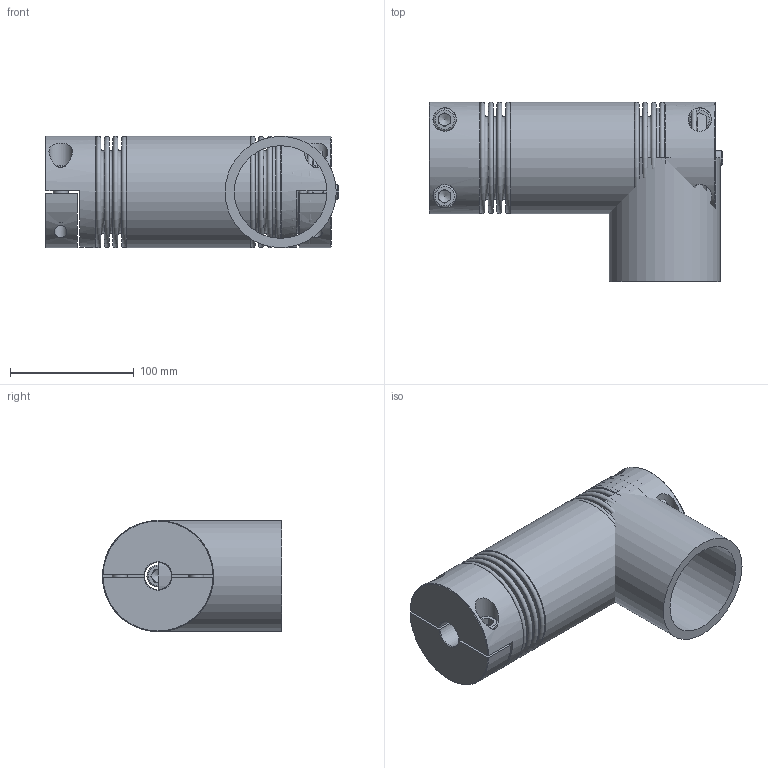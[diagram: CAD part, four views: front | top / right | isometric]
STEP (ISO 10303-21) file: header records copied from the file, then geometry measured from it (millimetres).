
FILE_DESCRIPTION( ( 'Unknown' ), '1' );
FILE_NAME( 'K:/Konstruktion/DRB/DRB200.stp', 'Unknown', ( 'Unknown' ), ( 'Unknown' ), 'XStep 1.0', 'Unknown', ' ' );
FILE_SCHEMA( ( 'automotive_design' ) );
Length unit declared in the file: millimetre
Products named in the file (6): Assem1; KN4H-200; BK200_Standard_0; Socket Head Cap Screw_DIN_DIN 912 M12 x 35 --- 35N_2; R90
Bounding box: 237.5 x 145 x 90 mm (x, y, z)
Volume: 1116871.3 mm3; surface area: 407119.8 mm2
Topology: 16 solids, 16 shells, 311 faces, 621 edges, 398 vertices
Faces by surface type: plane 166, torus 64, cylinder 56, cone 25
Full cylindrical faces by diameter (mm): 10.106 x6, 12 x5, 12.5 x6, 18 x5, 19 x6, 22 x3, 75 x2, 79.2 x6, 80.4 x6, 90 x5
Entity records: 2637 total; most frequent: CARTESIAN_POINT 716, DIRECTION 406, ORIENTED_EDGE 264, AXIS2_PLACEMENT_3D 183, EDGE_LOOP 162, EDGE_CURVE 132, FACE_OUTER_BOUND 127, VERTEX_POINT 109
